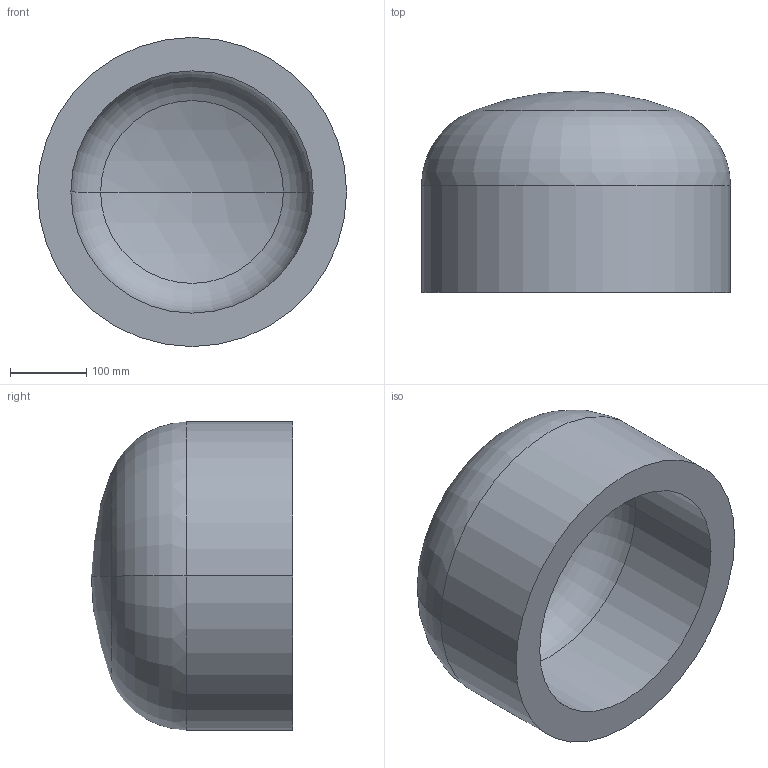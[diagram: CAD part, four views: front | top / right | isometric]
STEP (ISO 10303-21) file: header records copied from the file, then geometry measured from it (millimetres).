
FILE_DESCRIPTION (( 'STEP AP203' ), '1' );
FILE_NAME ('DIN 28013 Korbbogenform_-_Boden DIN 28013 - 406,4 x 140 - I - s=44.step', '2016-07-01T07:51:09', ( '' ), ( '' ), 'SwSTEP 2.0', 'SolidWorks 2013', '' );
FILE_SCHEMA (( 'CONFIG_CONTROL_DESIGN' ));
Length unit declared in the file: millimetre
Products named in the file (1): DIN 28013 Korbbogenform_-_Boden DIN 28013 - 406,4 x 140 - I - s=44
Bounding box: 406.4 x 264.62 x 406.4 mm (x, y, z)
Volume: 13918470.2 mm3; surface area: 686807 mm2
Topology: 1 solids, 1 shells, 13 faces, 24 edges, 14 vertices
Faces by surface type: torus 4, cylinder 4, sphere 4, plane 1
Entity records: 407 total; most frequent: DIRECTION 72, CARTESIAN_POINT 52, ORIENTED_EDGE 48, AXIS2_PLACEMENT_3D 34, EDGE_CURVE 24, CIRCLE 20, EDGE_LOOP 14, VERTEX_POINT 14
